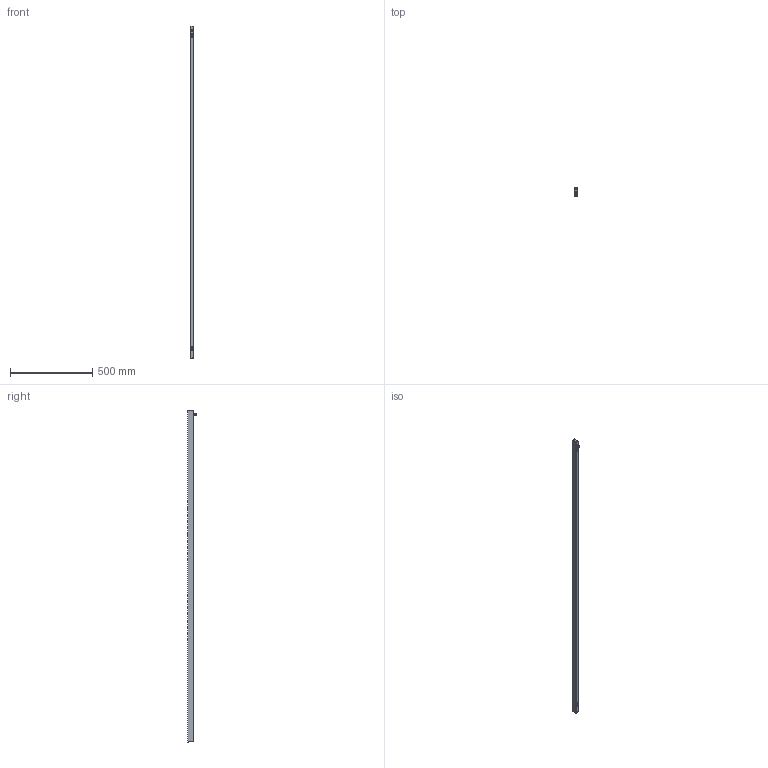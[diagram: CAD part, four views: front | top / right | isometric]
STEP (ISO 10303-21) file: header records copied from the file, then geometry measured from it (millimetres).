
FILE_DESCRIPTION((''),'2;1');
FILE_NAME('RNC_SLIM_2020_SW0001','2025-07-24T11:32:59',('Piccioli'),(''),'CREO PARAMETRIC BY PTC INC, 2025010','CREO PARAMETRIC BY PTC INC, 2025010','');
FILE_SCHEMA(('CONFIG_CONTROL_DESIGN'));
Length unit declared in the file: millimetre
Products named in the file (1): RNC_SLIM_2020_SW0001
Bounding box: 20.73 x 50.5 x 2018 mm (x, y, z)
Surface area: 214579 mm2 (no closed solid volume)
Topology: 0 solids, 45 shells, 109 faces, 703 edges, 626 vertices
Faces by surface type: plane 59, cylinder 26, cone 16, torus 8
Entity records: 8970 total; most frequent: CARTESIAN_POINT 3981, DIRECTION 933, ORIENTED_EDGE 833, EDGE_CURVE 703, VERTEX_POINT 626, VECTOR 347, LINE 347, AXIS2_PLACEMENT_3D 293
